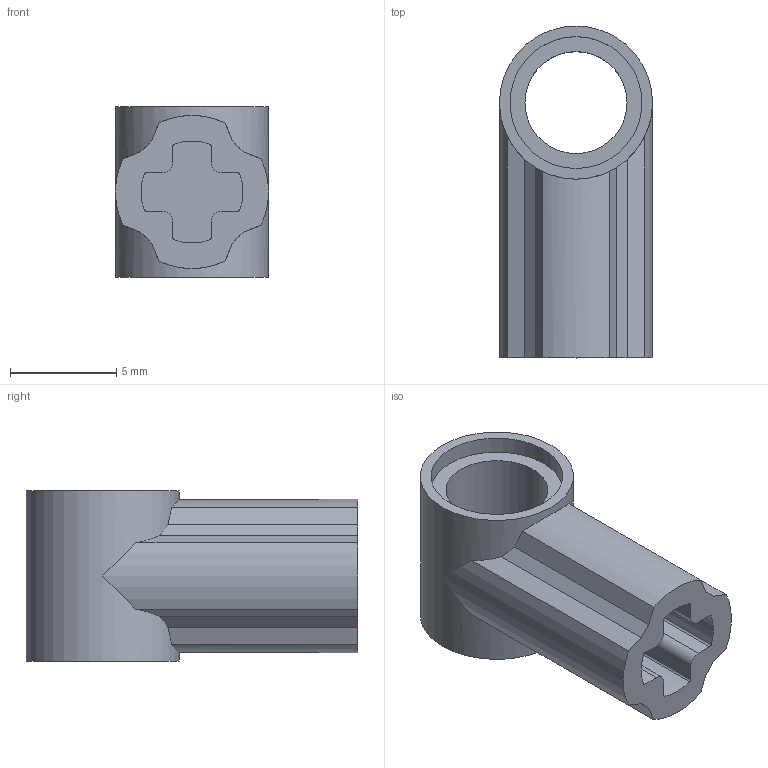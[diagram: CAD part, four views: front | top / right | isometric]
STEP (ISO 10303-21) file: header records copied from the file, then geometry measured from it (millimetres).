
FILE_DESCRIPTION(/* description */ ('Unknown'),/* implementation_level */ '2;1');
FILE_NAME(/* name */ 'ClGray_4211550_JCA',/* time_stamp */ '2025-07-21T23:50:52+02:00',/* author */ ('Unknown'),/* organization */ ('Unknown'),/* preprocessor_version */ 'ST-DEVELOPER v19.4',/* originating_system */ 'Solid Edge',/* authorisation */ 'Unknown');
FILE_SCHEMA (('AUTOMOTIVE_DESIGN {1 0 10303 214 3 1 1}'));
Length unit declared in the file: millimetre
Products named in the file (1): ClGray_4211550_JCA
Bounding box: 7.2 x 15.6 x 8 mm (x, y, z)
Volume: 382.3 mm3; surface area: 701.1 mm2
Topology: 1 solids, 1 shells, 50 faces, 135 edges, 90 vertices
Faces by surface type: plane 26, cylinder 24
Full cylindrical faces by diameter (mm): 4.8 x1, 6.2 x2, 7.2 x1
Entity records: 1610 total; most frequent: DIRECTION 294, CARTESIAN_POINT 271, ORIENTED_EDGE 260, EDGE_CURVE 130, AXIS2_PLACEMENT_3D 113, VERTEX_POINT 90, LINE 68, VECTOR 68
